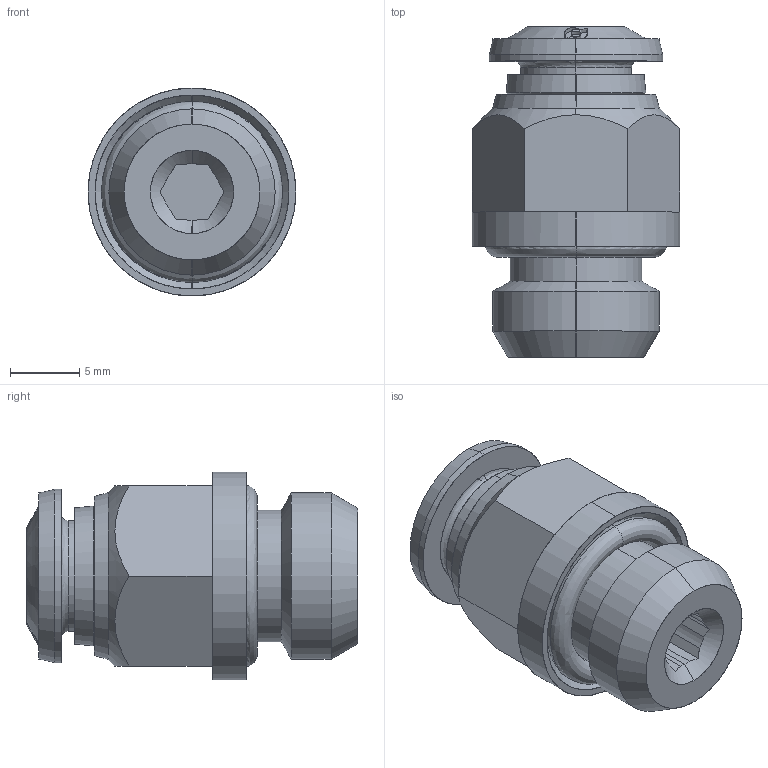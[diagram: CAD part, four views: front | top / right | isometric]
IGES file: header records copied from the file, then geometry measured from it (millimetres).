
Start section: SolidWorks IGES file using analytic representation for surfaces
Global section: file name: K:\Disegni Esecutivi\Serie 50000\ASSIEMI\50020\ASSIEMI_PIENI_50020\5002000014.IGS; native system: SolidWorks 2007; preprocessor: SolidWorks 2007; author: cad02; date: 071011.095153; units: millimetre
Bounding box: 15.01 x 23.9 x 15 mm (x, y, z)
Surface area: 1978.8 mm2 (no closed solid volume)
Topology: 0 solids, 0 shells, 174 faces, 1988 edges, 1988 vertices
Faces by surface type: bspline 106, revolution 68
